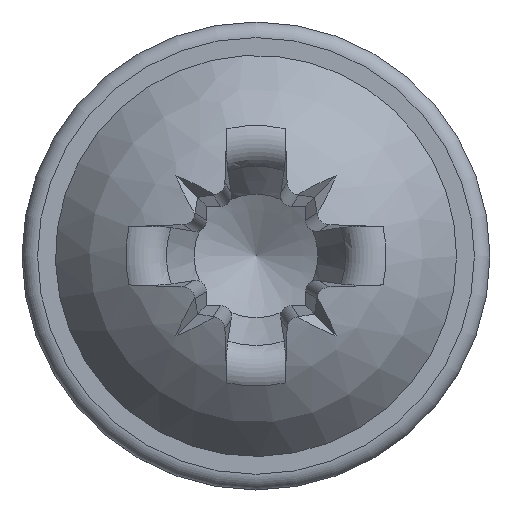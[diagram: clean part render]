
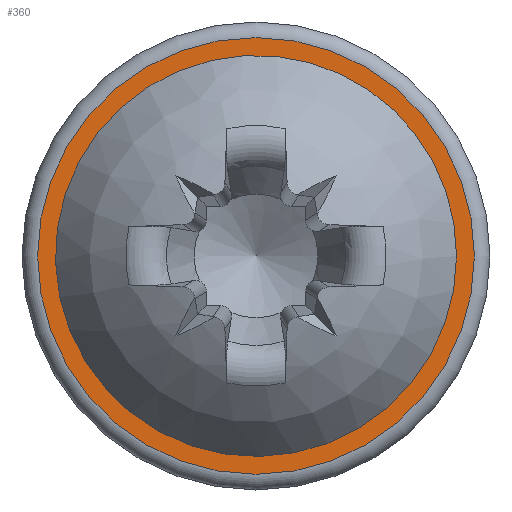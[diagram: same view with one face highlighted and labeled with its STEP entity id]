
A CAD part, top view. The second image highlights one B-rep face of the part: STEP entity #360.
In plain terms, the highlighted planar face has unit normal (0, 0, 1).
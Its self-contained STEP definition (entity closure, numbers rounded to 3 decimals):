
#290=PLANE('',#1990);
#334=FACE_BOUND('',#604,.T.);
#335=FACE_BOUND('',#605,.T.);
#360=ADVANCED_FACE('',(#334,#335),#290,.F.);
#604=EDGE_LOOP('',(#856));
#605=EDGE_LOOP('',(#857));
#722=CIRCLE('',#1956,2.143);
#749=CIRCLE('',#1989,2.333);
#856=ORIENTED_EDGE('',*,*,#1605,.T.);
#857=ORIENTED_EDGE('',*,*,#1564,.F.);
#1382=VERTEX_POINT('',#4743);
#1421=VERTEX_POINT('',#5042);
#1564=EDGE_CURVE('',#1382,#1382,#722,.T.);
#1605=EDGE_CURVE('',#1421,#1421,#749,.T.);
#1956=AXIS2_PLACEMENT_3D('',#4742,#2067,#2068);
#1989=AXIS2_PLACEMENT_3D('',#5041,#2133,#2134);
#1990=AXIS2_PLACEMENT_3D('',#5043,#2135,#2136);
#2067=DIRECTION('',(0.,0.,1.));
#2068=DIRECTION('',(1.,0.,0.));
#2133=DIRECTION('',(0.,0.,1.));
#2134=DIRECTION('',(-1.,0.,0.));
#2135=DIRECTION('',(0.,0.,-1.));
#2136=DIRECTION('',(-1.,0.,0.));
#4742=CARTESIAN_POINT('',(0.,0.,0.6));
#4743=CARTESIAN_POINT('',(2.143,0.,0.6));
#5041=CARTESIAN_POINT('',(0.,0.,0.6));
#5042=CARTESIAN_POINT('',(-2.333,0.,0.6));
#5043=CARTESIAN_POINT('',(0.,2.5,0.6));
